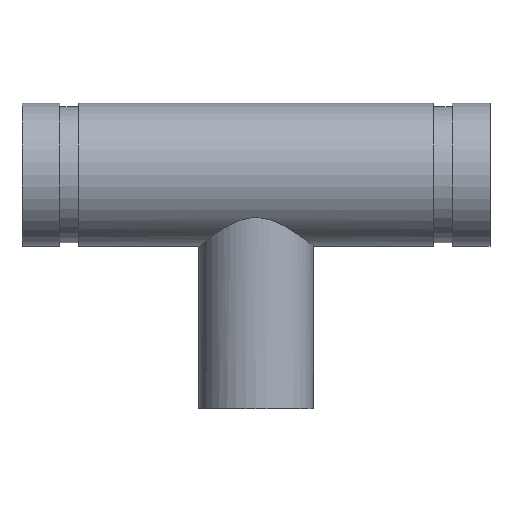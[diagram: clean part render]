
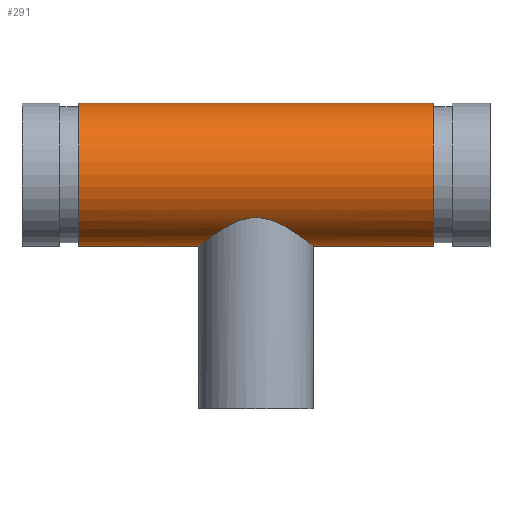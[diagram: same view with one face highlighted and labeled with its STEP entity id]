
A CAD part, top view. The second image highlights one B-rep face of the part: STEP entity #291.
In plain terms, the highlighted cylindrical face has radius 30.163 mm (diameter 60.325 mm), a full revolution.
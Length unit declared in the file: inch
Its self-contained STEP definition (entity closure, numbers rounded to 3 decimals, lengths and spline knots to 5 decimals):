
#45=B_SPLINE_CURVE_WITH_KNOTS('',3,(#511,#512,#513,#514,#515,#516,#517,
#518,#519,#520,#521,#522,#523,#524,#525,#526,#527,#528,#529,#530,#531,#532,
#533,#534,#535,#536,#537,#538,#539,#540,#541,#542,#543,#544,#545,#546,#547,
#548,#549,#550,#551,#552,#553,#554,#555,#556,#557,#558,#559,#560),
 .UNSPECIFIED.,.F.,.F.,(4,2,2,2,2,2,2,2,2,2,2,2,2,2,2,2,2,2,2,2,2,2,2,2,
4),(0.,0.49484,0.98968,1.48453,1.97937,
2.45882,2.93827,3.41772,3.89717,4.37663,
4.85608,5.33553,5.81498,6.30982,6.80467,
7.29951,7.79435,8.28919,8.78403,9.27888,
9.77372,10.25317,10.73262,11.21207,11.69152),
 .UNSPECIFIED.);
#46=B_SPLINE_CURVE_WITH_KNOTS('',3,(#561,#562,#563,#564,#565,#566,#567,
#568,#569,#570,#571,#572,#573,#574,#575,#576,#577,#578),.UNSPECIFIED.,.F.,
 .F.,(4,2,2,2,2,2,2,2,4),(11.69152,12.17098,12.65043,
13.12988,13.60933,14.10417,14.59902,15.09386,
15.5887),.UNSPECIFIED.);
#51=LINE('',#508,#59);
#59=VECTOR('',#410,1.1875);
#67=CYLINDRICAL_SURFACE('',#338,1.1875);
#77=FACE_BOUND('',#108,.T.);
#88=FACE_OUTER_BOUND('',#107,.T.);
#107=EDGE_LOOP('',(#221,#222,#223,#224));
#108=EDGE_LOOP('',(#225,#226));
#121=CIRCLE('',#321,1.1875);
#132=CIRCLE('',#337,1.1875);
#141=VERTEX_POINT('',#476);
#152=VERTEX_POINT('',#505);
#153=VERTEX_POINT('',#509);
#154=VERTEX_POINT('',#510);
#165=EDGE_CURVE('',#141,#141,#121,.T.);
#178=EDGE_CURVE('',#152,#152,#132,.T.);
#179=EDGE_CURVE('',#152,#141,#51,.T.);
#180=EDGE_CURVE('',#153,#154,#45,.T.);
#181=EDGE_CURVE('',#154,#153,#46,.T.);
#221=ORIENTED_EDGE('',*,*,#178,.T.);
#222=ORIENTED_EDGE('',*,*,#179,.T.);
#223=ORIENTED_EDGE('',*,*,#165,.T.);
#224=ORIENTED_EDGE('',*,*,#179,.F.);
#225=ORIENTED_EDGE('',*,*,#180,.F.);
#226=ORIENTED_EDGE('',*,*,#181,.F.);
#291=ADVANCED_FACE('',(#88,#77),#67,.T.);
#321=AXIS2_PLACEMENT_3D('',#477,#372,#373);
#337=AXIS2_PLACEMENT_3D('',#506,#406,#407);
#338=AXIS2_PLACEMENT_3D('',#507,#408,#409);
#372=DIRECTION('center_axis',(-1.,0.,0.));
#373=DIRECTION('ref_axis',(0.,-1.,0.));
#406=DIRECTION('center_axis',(1.,0.,0.));
#407=DIRECTION('ref_axis',(0.,-1.,0.));
#408=DIRECTION('center_axis',(-1.,0.,0.));
#409=DIRECTION('ref_axis',(0.,-1.,0.));
#410=DIRECTION('',(1.,0.,0.));
#476=CARTESIAN_POINT('',(2.942,1.1875,0.));
#477=CARTESIAN_POINT('Origin',(2.942,0.,0.));
#505=CARTESIAN_POINT('',(-2.942,1.1875,0.));
#506=CARTESIAN_POINT('Origin',(-2.942,0.,0.));
#507=CARTESIAN_POINT('Origin',(3.88,0.,0.));
#508=CARTESIAN_POINT('',(3.88,1.1875,0.));
#509=CARTESIAN_POINT('',(0.,-0.7125,-0.95));
#510=CARTESIAN_POINT('',(-0.95,-1.1875,0.));
#511=CARTESIAN_POINT('Ctrl Pts',(0.,-0.7125,-0.95));
#512=CARTESIAN_POINT('Ctrl Pts',(0.06494,-0.7125,-0.95));
#513=CARTESIAN_POINT('Ctrl Pts',(0.12934,-0.72164,-0.94331));
#514=CARTESIAN_POINT('Ctrl Pts',(0.25407,-0.75404,-0.91761));
#515=CARTESIAN_POINT('Ctrl Pts',(0.31444,-0.77714,-0.89861));
#516=CARTESIAN_POINT('Ctrl Pts',(0.42908,-0.83017,-0.84986));
#517=CARTESIAN_POINT('Ctrl Pts',(0.48343,-0.86008,-0.82006));
#518=CARTESIAN_POINT('Ctrl Pts',(0.58411,-0.92044,-0.75168));
#519=CARTESIAN_POINT('Ctrl Pts',(0.63044,-0.9509,-0.71307));
#520=CARTESIAN_POINT('Ctrl Pts',(0.71178,-1.0067,-0.63172));
#521=CARTESIAN_POINT('Ctrl Pts',(0.75008,-1.03428,-0.58616));
#522=CARTESIAN_POINT('Ctrl Pts',(0.81875,-1.08511,-0.48565));
#523=CARTESIAN_POINT('Ctrl Pts',(0.84913,-1.10834,-0.43068));
#524=CARTESIAN_POINT('Ctrl Pts',(0.89874,-1.1468,-0.31428));
#525=CARTESIAN_POINT('Ctrl Pts',(0.91801,-1.16204,-0.25272));
#526=CARTESIAN_POINT('Ctrl Pts',(0.94365,-1.1824,-0.12704));
#527=CARTESIAN_POINT('Ctrl Pts',(0.95,-1.1875,-0.06292));
#528=CARTESIAN_POINT('Ctrl Pts',(0.95,-1.1875,0.06292));
#529=CARTESIAN_POINT('Ctrl Pts',(0.94365,-1.1824,0.12704));
#530=CARTESIAN_POINT('Ctrl Pts',(0.91801,-1.16204,0.25272));
#531=CARTESIAN_POINT('Ctrl Pts',(0.89874,-1.1468,0.31428));
#532=CARTESIAN_POINT('Ctrl Pts',(0.84913,-1.10834,0.43068));
#533=CARTESIAN_POINT('Ctrl Pts',(0.81875,-1.08511,0.48565));
#534=CARTESIAN_POINT('Ctrl Pts',(0.75008,-1.03428,0.58616));
#535=CARTESIAN_POINT('Ctrl Pts',(0.71178,-1.0067,0.63172));
#536=CARTESIAN_POINT('Ctrl Pts',(0.63044,-0.9509,0.71307));
#537=CARTESIAN_POINT('Ctrl Pts',(0.58411,-0.92044,0.75168));
#538=CARTESIAN_POINT('Ctrl Pts',(0.48343,-0.86008,0.82006));
#539=CARTESIAN_POINT('Ctrl Pts',(0.42908,-0.83017,0.84986));
#540=CARTESIAN_POINT('Ctrl Pts',(0.31444,-0.77714,0.89861));
#541=CARTESIAN_POINT('Ctrl Pts',(0.25407,-0.75404,0.91761));
#542=CARTESIAN_POINT('Ctrl Pts',(0.12934,-0.72164,0.94331));
#543=CARTESIAN_POINT('Ctrl Pts',(0.06494,-0.7125,0.95));
#544=CARTESIAN_POINT('Ctrl Pts',(-0.06494,-0.7125,0.95));
#545=CARTESIAN_POINT('Ctrl Pts',(-0.12934,-0.72164,
0.94331));
#546=CARTESIAN_POINT('Ctrl Pts',(-0.25407,-0.75404,
0.91761));
#547=CARTESIAN_POINT('Ctrl Pts',(-0.31444,-0.77714,
0.89861));
#548=CARTESIAN_POINT('Ctrl Pts',(-0.42908,-0.83017,
0.84986));
#549=CARTESIAN_POINT('Ctrl Pts',(-0.48343,-0.86008,
0.82006));
#550=CARTESIAN_POINT('Ctrl Pts',(-0.58411,-0.92044,
0.75168));
#551=CARTESIAN_POINT('Ctrl Pts',(-0.63044,-0.9509,
0.71307));
#552=CARTESIAN_POINT('Ctrl Pts',(-0.71178,-1.0067,0.63172));
#553=CARTESIAN_POINT('Ctrl Pts',(-0.75008,-1.03428,0.58616));
#554=CARTESIAN_POINT('Ctrl Pts',(-0.81875,-1.08511,0.48565));
#555=CARTESIAN_POINT('Ctrl Pts',(-0.84913,-1.10834,0.43068));
#556=CARTESIAN_POINT('Ctrl Pts',(-0.89874,-1.1468,0.31428));
#557=CARTESIAN_POINT('Ctrl Pts',(-0.91801,-1.16204,0.25272));
#558=CARTESIAN_POINT('Ctrl Pts',(-0.94365,-1.1824,0.12704));
#559=CARTESIAN_POINT('Ctrl Pts',(-0.95,-1.1875,0.06292));
#560=CARTESIAN_POINT('Ctrl Pts',(-0.95,-1.1875,0.));
#561=CARTESIAN_POINT('Ctrl Pts',(-0.95,-1.1875,0.));
#562=CARTESIAN_POINT('Ctrl Pts',(-0.95,-1.1875,-0.06292));
#563=CARTESIAN_POINT('Ctrl Pts',(-0.94365,-1.1824,-0.12704));
#564=CARTESIAN_POINT('Ctrl Pts',(-0.91801,-1.16204,-0.25272));
#565=CARTESIAN_POINT('Ctrl Pts',(-0.89874,-1.1468,-0.31428));
#566=CARTESIAN_POINT('Ctrl Pts',(-0.84913,-1.10834,-0.43068));
#567=CARTESIAN_POINT('Ctrl Pts',(-0.81875,-1.08511,-0.48565));
#568=CARTESIAN_POINT('Ctrl Pts',(-0.75008,-1.03428,-0.58616));
#569=CARTESIAN_POINT('Ctrl Pts',(-0.71178,-1.0067,-0.63172));
#570=CARTESIAN_POINT('Ctrl Pts',(-0.63044,-0.9509,
-0.71307));
#571=CARTESIAN_POINT('Ctrl Pts',(-0.58411,-0.92044,
-0.75168));
#572=CARTESIAN_POINT('Ctrl Pts',(-0.48343,-0.86008,
-0.82006));
#573=CARTESIAN_POINT('Ctrl Pts',(-0.42908,-0.83017,
-0.84986));
#574=CARTESIAN_POINT('Ctrl Pts',(-0.31444,-0.77714,
-0.89861));
#575=CARTESIAN_POINT('Ctrl Pts',(-0.25407,-0.75404,
-0.91761));
#576=CARTESIAN_POINT('Ctrl Pts',(-0.12934,-0.72164,
-0.94331));
#577=CARTESIAN_POINT('Ctrl Pts',(-0.06494,-0.7125,-0.95));
#578=CARTESIAN_POINT('Ctrl Pts',(0.,-0.7125,-0.95));
